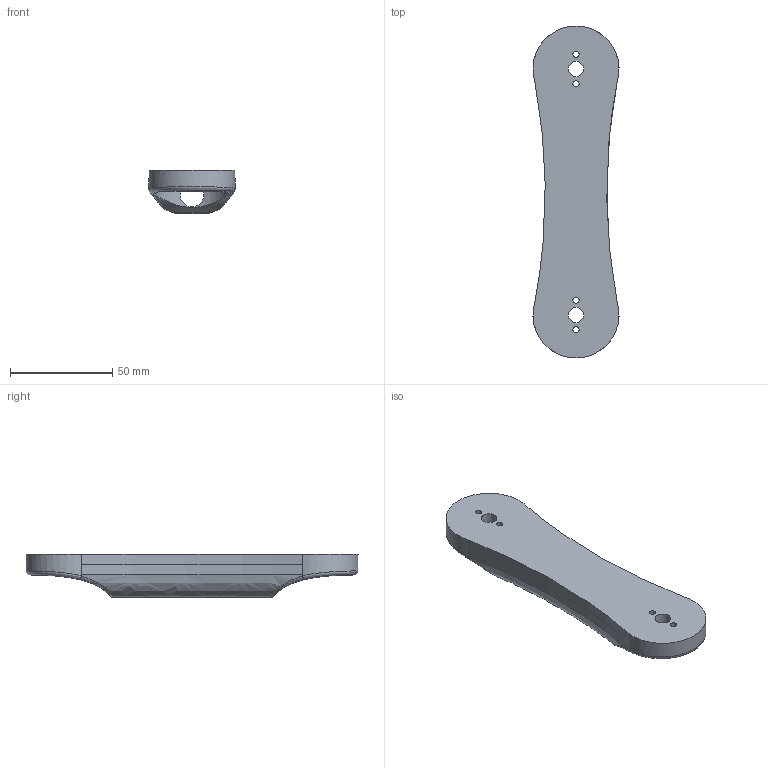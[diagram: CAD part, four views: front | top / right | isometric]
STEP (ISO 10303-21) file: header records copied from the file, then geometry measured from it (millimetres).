
FILE_DESCRIPTION(/* description */ (''),/* implementation_level */ '2;1');
FILE_NAME(/* name */ 'Arm 01.step',/* time_stamp */ '2024-01-03T12:00:27+05:30',/* author */ (''),/* organization */ (''),/* preprocessor_version */ 'ST-DEVELOPER v20',/* originating_system */ 'Autodesk Translation Framework v12.14.0.127',/* authorisation */ '');
FILE_SCHEMA (('AUTOMOTIVE_DESIGN { 1 0 10303 214 3 1 1 }'));
Length unit declared in the file: millimetre
Products named in the file (1): Arm 01
Bounding box: 41.98 x 162 x 21 mm (x, y, z)
Volume: 64070.3 mm3; surface area: 20584.3 mm2
Topology: 1 solids, 1 shells, 31 faces, 81 edges, 54 vertices
Faces by surface type: bspline 14, cylinder 13, plane 4
Full cylindrical faces by diameter (mm): 3 x4, 7.5 x2, 11.5 x1, 36 x2
Entity records: 4470 total; most frequent: CARTESIAN_POINT 3751, ORIENTED_EDGE 162, DIRECTION 97, EDGE_CURVE 81, VERTEX_POINT 54, EDGE_LOOP 47, B_SPLINE_CURVE_WITH_KNOTS 40, AXIS2_PLACEMENT_3D 38
